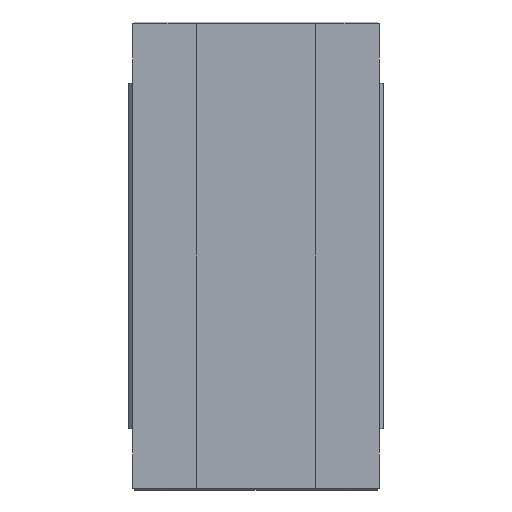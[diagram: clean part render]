
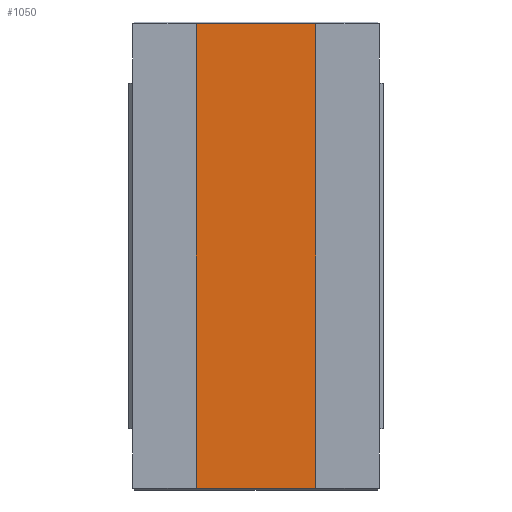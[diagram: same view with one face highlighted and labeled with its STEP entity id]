
A CAD part, front view. The second image highlights one B-rep face of the part: STEP entity #1050.
In plain terms, the highlighted planar face has unit normal (0, -1, 0).
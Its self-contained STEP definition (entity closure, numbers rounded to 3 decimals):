
#72=FACE_OUTER_BOUND('',#134,.T.);
#134=EDGE_LOOP('',(#745,#746,#747,#748));
#215=LINE('',#1546,#347);
#224=LINE('',#1564,#356);
#226=LINE('',#1568,#358);
#227=LINE('',#1569,#359);
#347=VECTOR('',#1247,10.);
#356=VECTOR('',#1262,10.);
#358=VECTOR('',#1266,10.);
#359=VECTOR('',#1267,10.);
#454=VERTEX_POINT('',#1494);
#469=VERTEX_POINT('',#1540);
#476=VERTEX_POINT('',#1563);
#477=VERTEX_POINT('',#1567);
#571=EDGE_CURVE('',#454,#469,#215,.T.);
#580=EDGE_CURVE('',#476,#469,#224,.T.);
#582=EDGE_CURVE('',#477,#454,#226,.T.);
#583=EDGE_CURVE('',#476,#477,#227,.T.);
#745=ORIENTED_EDGE('',*,*,#571,.F.);
#746=ORIENTED_EDGE('',*,*,#582,.F.);
#747=ORIENTED_EDGE('',*,*,#583,.F.);
#748=ORIENTED_EDGE('',*,*,#580,.T.);
#1000=PLANE('',#1132);
#1050=ADVANCED_FACE('',(#72),#1000,.T.);
#1132=AXIS2_PLACEMENT_3D('',#1566,#1264,#1265);
#1247=DIRECTION('',(1.,0.,0.));
#1262=DIRECTION('',(0.,0.,1.));
#1264=DIRECTION('center_axis',(0.,-1.,0.));
#1265=DIRECTION('ref_axis',(1.,0.,0.));
#1266=DIRECTION('',(0.,0.,1.));
#1267=DIRECTION('',(-1.,0.,0.));
#1494=CARTESIAN_POINT('',(-7.5,10.,29.2));
#1540=CARTESIAN_POINT('',(7.5,10.,29.2));
#1546=CARTESIAN_POINT('',(-3.75,10.,29.2));
#1563=CARTESIAN_POINT('',(7.5,10.,-29.2));
#1564=CARTESIAN_POINT('',(7.5,10.,0.));
#1566=CARTESIAN_POINT('Origin',(-7.5,10.,0.));
#1567=CARTESIAN_POINT('',(-7.5,10.,-29.2));
#1568=CARTESIAN_POINT('',(-7.5,10.,0.));
#1569=CARTESIAN_POINT('',(-3.75,10.,-29.2));
